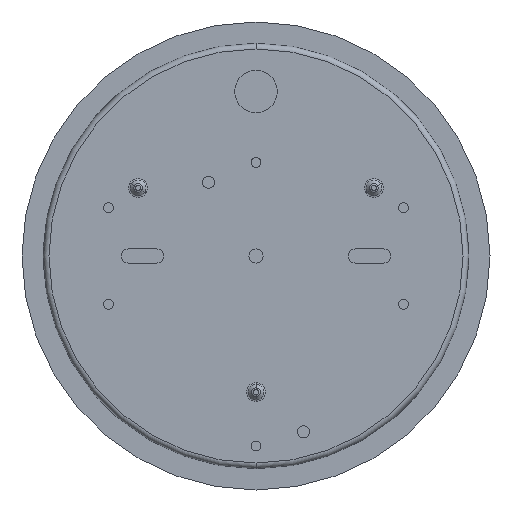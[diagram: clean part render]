
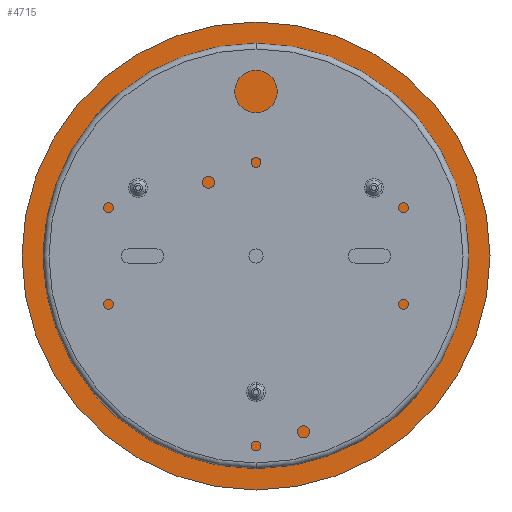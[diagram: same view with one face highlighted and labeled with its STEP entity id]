
A CAD part, front view. The second image highlights one B-rep face of the part: STEP entity #4715.
In plain terms, the highlighted planar face has unit normal (0, -1, 0).
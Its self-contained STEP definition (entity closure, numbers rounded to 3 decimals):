
#25 = DIRECTION ( 'NONE',  ( -1., 0., 0. ) ) ;
#100 = DIRECTION ( 'NONE',  ( 0., 0., 1. ) ) ;
#238 = PLANE ( 'NONE',  #2074 ) ;
#268 = VERTEX_POINT ( 'NONE', #1582 ) ;
#402 = ORIENTED_EDGE ( 'NONE', *, *, #3601, .F. ) ;
#461 = CARTESIAN_POINT ( 'NONE',  ( -72., 0., 12.5 ) ) ;
#543 = EDGE_CURVE ( 'NONE', #268, #2731, #602, .T. ) ;
#602 = LINE ( 'NONE', #3295, #2401 ) ;
#670 = VERTEX_POINT ( 'NONE', #832 ) ;
#703 = CIRCLE ( 'NONE', #3560, 82.5 ) ;
#757 = ORIENTED_EDGE ( 'NONE', *, *, #543, .T. ) ;
#784 = FACE_OUTER_BOUND ( 'NONE', #4323, .T. ) ;
#832 = CARTESIAN_POINT ( 'NONE',  ( -72., 0., 12.5 ) ) ;
#835 = LINE ( 'NONE', #4192, #2962 ) ;
#915 = CARTESIAN_POINT ( 'NONE',  ( 72., 0., 12.5 ) ) ;
#924 = DIRECTION ( 'NONE',  ( 0., 0., 1. ) ) ;
#1209 = DIRECTION ( 'NONE',  ( 0., 0., 1. ) ) ;
#1231 = CIRCLE ( 'NONE', #3791, 82.5 ) ;
#1288 = LINE ( 'NONE', #461, #4491 ) ;
#1533 = DIRECTION ( 'NONE',  ( 0., 1., 0. ) ) ;
#1582 = CARTESIAN_POINT ( 'NONE',  ( 72., 0., -12.5 ) ) ;
#1611 = DIRECTION ( 'NONE',  ( 0., 0., -1. ) ) ;
#1618 = EDGE_CURVE ( 'NONE', #670, #2731, #1288, .T. ) ;
#1645 = ORIENTED_EDGE ( 'NONE', *, *, #1659, .F. ) ;
#1659 = EDGE_CURVE ( 'NONE', #2986, #670, #3299, .T. ) ;
#1693 = EDGE_CURVE ( 'NONE', #2986, #268, #835, .T. ) ;
#1952 = CARTESIAN_POINT ( 'NONE',  ( -72., 0., -12.5 ) ) ;
#1970 = VERTEX_POINT ( 'NONE', #2926 ) ;
#1980 = CARTESIAN_POINT ( 'NONE',  ( 72., 0., 12.5 ) ) ;
#2074 = AXIS2_PLACEMENT_3D ( 'NONE', #3501, #2811, #924 ) ;
#2231 = EDGE_CURVE ( 'NONE', #3715, #1970, #1231, .T. ) ;
#2308 = DIRECTION ( 'NONE',  ( 0., 1., 0. ) ) ;
#2401 = VECTOR ( 'NONE', #25, 1000. ) ;
#2448 = ORIENTED_EDGE ( 'NONE', *, *, #1693, .T. ) ;
#2646 = DIRECTION ( 'NONE',  ( 0., 0., -1. ) ) ;
#2731 = VERTEX_POINT ( 'NONE', #1952 ) ;
#2811 = DIRECTION ( 'NONE',  ( 0., 1., 0. ) ) ;
#2926 = CARTESIAN_POINT ( 'NONE',  ( 0., 0., -82.5 ) ) ;
#2962 = VECTOR ( 'NONE', #1611, 1000. ) ;
#2986 = VERTEX_POINT ( 'NONE', #915 ) ;
#3295 = CARTESIAN_POINT ( 'NONE',  ( 72., 0., -12.5 ) ) ;
#3299 = LINE ( 'NONE', #1980, #3871 ) ;
#3355 = ORIENTED_EDGE ( 'NONE', *, *, #2231, .F. ) ;
#3426 = CARTESIAN_POINT ( 'NONE',  ( 0., 0., 0. ) ) ;
#3495 = CARTESIAN_POINT ( 'NONE',  ( 0., 0., 82.5 ) ) ;
#3501 = CARTESIAN_POINT ( 'NONE',  ( 0., 0., 0. ) ) ;
#3560 = AXIS2_PLACEMENT_3D ( 'NONE', #3426, #1533, #1209 ) ;
#3601 = EDGE_CURVE ( 'NONE', #1970, #3715, #703, .T. ) ;
#3715 = VERTEX_POINT ( 'NONE', #3495 ) ;
#3791 = AXIS2_PLACEMENT_3D ( 'NONE', #4471, #2308, #100 ) ;
#3871 = VECTOR ( 'NONE', #4115, 1000. ) ;
#3892 = EDGE_LOOP ( 'NONE', ( #2448, #757, #4513, #1645 ) ) ;
#4115 = DIRECTION ( 'NONE',  ( -1., 0., 0. ) ) ;
#4192 = CARTESIAN_POINT ( 'NONE',  ( 72., 0., 12.5 ) ) ;
#4323 = EDGE_LOOP ( 'NONE', ( #402, #3355 ) ) ;
#4471 = CARTESIAN_POINT ( 'NONE',  ( 0., 0., 0. ) ) ;
#4491 = VECTOR ( 'NONE', #2646, 1000. ) ;
#4513 = ORIENTED_EDGE ( 'NONE', *, *, #1618, .F. ) ;
#4548 = FACE_BOUND ( 'NONE', #3892, .T. ) ;
#4715 = ADVANCED_FACE ( 'NONE', ( #4548, #784 ), #238, .F. ) ;
